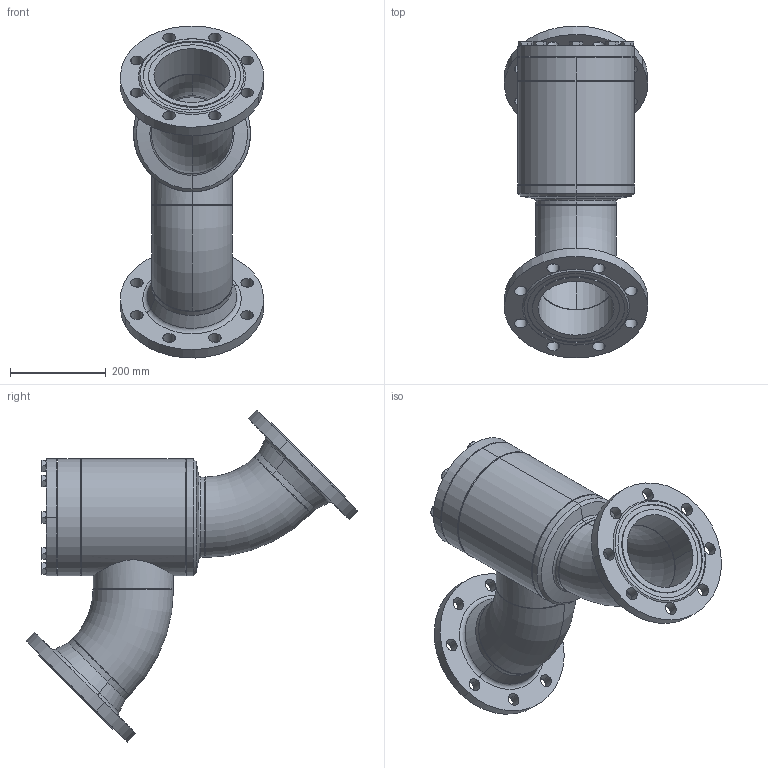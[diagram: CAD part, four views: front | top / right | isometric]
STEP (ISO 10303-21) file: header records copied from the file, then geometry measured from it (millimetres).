
FILE_DESCRIPTION (( 'STEP AP214' ), '1' );
FILE_NAME ('RV28320D21-DN150_DIN-FL-N_PS40.STEP', '2006-04-28T05:23:37', ( 'Herr Grams' ), ( 'AWP GmbH' ), 'SwSTEP 2.0', 'SolidWorks 2002296', '' );
FILE_SCHEMA (( 'AUTOMOTIVE_DESIGN' ));
Length unit declared in the file: millimetre
Products named in the file (21): RV28320D21-DN150_DIN-FL-N_PS40; RV28300E21_Deck+Schr-DN150_Standard; Deckel-kpl28300E21-DN150_Standard; Scheibe f Deckel28300-DN150_Standard; Buchse f Deckel28300-DN150_Standard; bead-deck283-150_Standard; Sechskantschraube-DIN933_M16x 45; Gehäuse-kpl16320-DN150_DIN_PS40_Standard; Flansch-DIN-Nut_PS40_DIN-Flansch-DN150_PS40-Nut; Gehäuse-kpl16300-DN150_R1_Standard; Rohrstutzen-A16300-DN150_R1_Standard; Boden16300-DN150_Standard; Gehäuse16300-DN150_Standard; Kopfstück16300-DN150_Standard; bead-DN150-2_Standard; bead-DN150-3_Standard; bead-DN150-4_Standard; bead-DN150-1_Standard; Rohrbogen 45°_Rohrbogen-DN150-45°; bead-DN150-6_Standard; bead-DN150-7_Standard
Assembly tree (31 placements, depth 4):
  RV28320D21-DN150_DIN-FL-N_PS40
    RV28300E21_Deck+Schr-DN150_Standard
      Sechskantschraube-DIN933_M16x 45  x8
      Deckel-kpl28300E21-DN150_Standard
        Buchse f Deckel28300-DN150_Standard
        bead-deck283-150_Standard
        Scheibe f Deckel28300-DN150_Standard
    Gehäuse-kpl16320-DN150_DIN_PS40_Standard
      bead-DN150-6_Standard
      bead-DN150-7_Standard
      Flansch-DIN-Nut_PS40_DIN-Flansch-DN150_PS40-Nut  x2
      Gehäuse-kpl16300-DN150_R1_Standard
        Rohrstutzen-A16300-DN150_R1_Standard
        bead-DN150-2_Standard
        bead-DN150-3_Standard
        Boden16300-DN150_Standard
        bead-DN150-4_Standard  x2
        Kopfstück16300-DN150_Standard
        bead-DN150-1_Standard  x2
        Gehäuse16300-DN150_Standard
        Rohrbogen 45°_Rohrbogen-DN150-45°  x2
Bounding box: 299.71 x 695.17 x 695.17 mm (x, y, z)
Volume: 9337427.3 mm3; surface area: 1727914.2 mm2
Topology: 27 solids, 27 shells, 415 faces, 922 edges, 562 vertices
Faces by surface type: cone 128, plane 120, cylinder 119, bspline 34, torus 14
Entity records: 10028 total; most frequent: CARTESIAN_POINT 4935, DIRECTION 900, ORIENTED_EDGE 836, EDGE_CURVE 418, AXIS2_PLACEMENT_3D 400, VERTEX_POINT 264, EDGE_LOOP 242, CIRCLE 204
